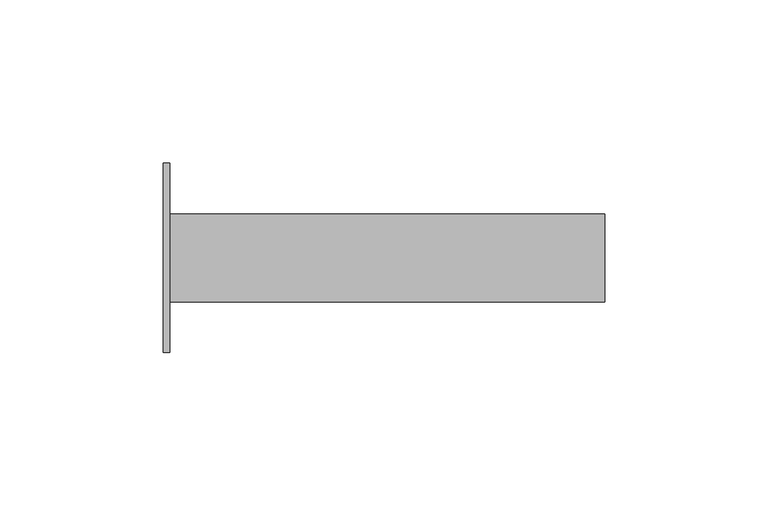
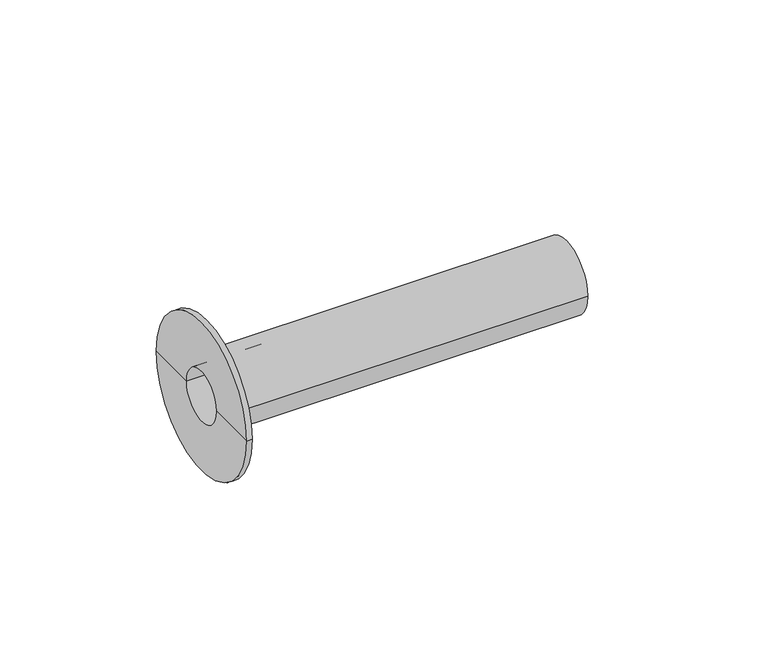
"""IFC4 building model written with IfcOpenShell, lengths in millimetres: pipe fitting geometry, NLRS_50_PIF_UN_Geberit Mapress rvs flenskraag met insteekeinde, voor losse flens PN 10_16_PRO_103074 : DN20-100 / d22-108 - OD."""

from ifc_helpers import new_model, si_unit, frame, origin, place, context, project, spatial, polyline, circle_curve, source, transform, mapped, element, save
from ifc_brep_helpers import plane_surface, cylinder_surface, revolved_surface, advanced_brep


def pipe_fitting_28b5c15c(model_context):
    return source(origin(), model_context, "Body", "AdvancedBrep", [
        advanced_brep(
        [(0.0, -29.0, 0.0), (0.0, 29.0, 0.0), (0.0, 13.5, 0.0), (0.0, -13.5, 0.0), (-2.0, -29.0, 0.0), (-2.0, 29.0, 0.0), (-2.0, -9.8, 0.0), (-2.0, 9.8, 0.0), (133.0, -13.5, 0.0), (133.0, 13.5, 0.0), (133.0, 9.8, 0.0), (133.0, -9.8, 0.0)],
        [
            (0, 1, circle_curve(frame((0.0, 0.0, 0.0), z_axis=(1.0, 0.0, 0.0), x_axis=(0.0, 1.0, 0.0)), 29.0)),
            (1, 2),
            (2, 3, circle_curve(frame((0.0, 0.0, 0.0), z_axis=(-1.0, 0.0, 0.0), x_axis=(0.0, 1.0, 0.0)), 13.5)),
            (3, 0),
            (1, 0, circle_curve(frame((0.0, 0.0, 0.0), z_axis=(1.0, 0.0, 0.0), x_axis=(0.0, 1.0, 0.0)), 29.0)),
            (3, 2, circle_curve(frame((0.0, 0.0, 0.0), z_axis=(-1.0, 0.0, 0.0), x_axis=(0.0, 1.0, 0.0)), 13.5)),
            (4, 5, circle_curve(frame((-2.0, 0.0, 0.0), z_axis=(1.0, 0.0, 0.0), x_axis=(0.0, 1.0, 0.0)), 29.0)),
            (5, 1),
            (0, 4),
            (5, 4, circle_curve(frame((-2.0, 0.0, 0.0), z_axis=(1.0, 0.0, 0.0), x_axis=(0.0, 1.0, 0.0)), 29.0)),
            (6, 7, circle_curve(frame((-2.0, 0.0, 0.0), z_axis=(1.0, 0.0, 0.0), x_axis=(0.0, 1.0, 0.0)), 9.8)),
            (7, 5),
            (4, 6),
            (7, 6, circle_curve(frame((-2.0, 0.0, 0.0), z_axis=(1.0, 0.0, 0.0), x_axis=(0.0, 1.0, 0.0)), 9.8)),
            (8, 9, circle_curve(frame((133.0, 0.0, 0.0), z_axis=(1.0, 0.0, 0.0), x_axis=(0.0, 1.0, 0.0)), 13.5)),
            (9, 10),
            (10, 11, circle_curve(frame((133.0, 0.0, 0.0), z_axis=(-1.0, 0.0, 0.0), x_axis=(0.0, 1.0, 0.0)), 9.8)),
            (11, 8),
            (9, 8, circle_curve(frame((133.0, 0.0, 0.0), z_axis=(1.0, 0.0, 0.0), x_axis=(0.0, 1.0, 0.0)), 13.5)),
            (11, 10, circle_curve(frame((133.0, 0.0, 0.0), z_axis=(-1.0, 0.0, 0.0), x_axis=(0.0, 1.0, 0.0)), 9.8)),
            (2, 9),
            (8, 3),
            (10, 7),
            (6, 11),
        ],
        [
            plane_surface(frame((0.0, 0.0, 0.0), z_axis=(1.0, 0.0, 0.0), x_axis=(0.0, 1.0, 0.0))),
            cylinder_surface(frame((-2.0, 0.0, 0.0), z_axis=(-1.0, 0.0, 0.0), x_axis=(0.0, 1.0, 0.0)), 29.0),
            plane_surface(frame((-2.0, 0.0, 0.0), z_axis=(-1.0, 0.0, 0.0), x_axis=(0.0, 1.0, 0.0))),
            plane_surface(frame((133.0, 0.0, 0.0), z_axis=(1.0, 0.0, 0.0), x_axis=(0.0, 1.0, 0.0))),
            cylinder_surface(frame((-2.0, 0.0, 0.0), z_axis=(-1.0, 0.0, 0.0), x_axis=(0.0, 1.0, 0.0)), 13.5),
            revolved_surface(polyline([(-2.0, 9.8, 0.0), (133.0, 9.8, 0.0)]), (-2.0, 0.0, 0.0), (-1.0, 0.0, 0.0)),
        ],
        [
            (0, [[1, 2, 3, 4]]),
            (0, [[5, -4, 6, -2]]),
            (1, [[7, 8, -1, 9]]),
            (1, [[10, -9, -5, -8]]),
            (2, [[11, 12, -7, 13]]),
            (2, [[14, -13, -10, -12]]),
            (3, [[15, 16, 17, 18]]),
            (3, [[19, -18, 20, -16]]),
            (4, [[-3, 21, -15, 22]]),
            (4, [[-6, -22, -19, -21]]),
            (5, [[-17, 23, -11, 24]]),
            (5, [[-20, -24, -14, -23]]),
        ],
    ),
    ])


if __name__ == "__main__":
    model = new_model("IFC4")
    model_context = context("Model", 3, world=origin())
    ifc_project = project(units=[si_unit("LENGTHUNIT", "METRE", prefix="MILLI")], contexts=[model_context])
    site = spatial("IfcSite", under=ifc_project)
    building = spatial("IfcBuilding", under=site)
    placement = place(None, origin())
    pipe_fitting_shape = pipe_fitting_28b5c15c(model_context)
    element("IfcPipeFitting", 1, ObjectType="NLRS_50_PIF_UN_Geberit Mapress rvs flenskraag met insteekeinde, voor losse flens PN 10_16_PRO_103074 : DN20-100 / d22-108 - OD", at=placement, inside=building, context=model_context, shape_type="MappedRepresentation", body=[
        mapped(pipe_fitting_shape, transform((0.0, 0.0, 0.0), x_axis=(1.0, 0.0, 0.0), y_axis=(0.0, 1.0, 0.0), z_axis=(0.0, 0.0, 1.0))),
    ])
    save(model, "model.ifc")
